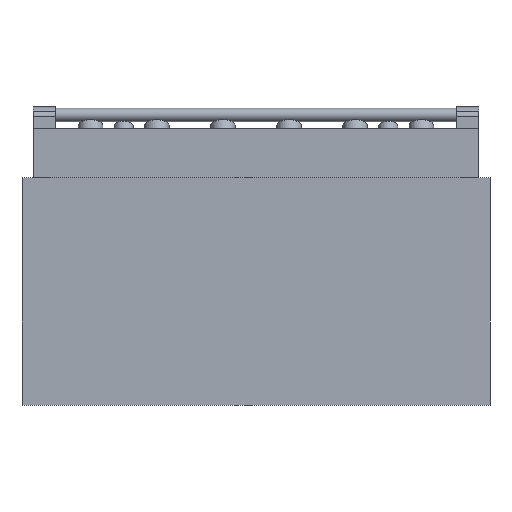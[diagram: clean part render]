
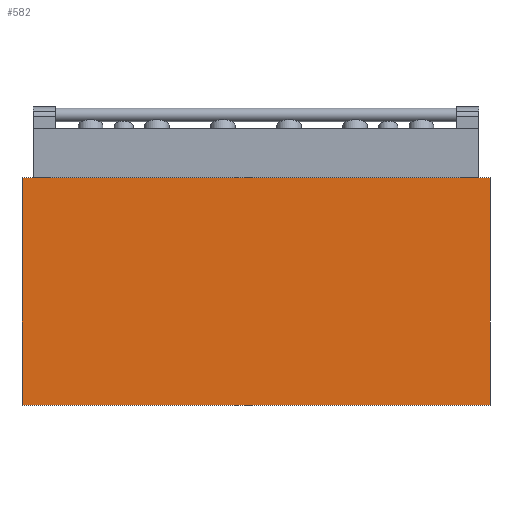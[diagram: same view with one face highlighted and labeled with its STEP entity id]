
A CAD part, front view. The second image highlights one B-rep face of the part: STEP entity #582.
In plain terms, the highlighted planar face has unit normal (0, -1, 0).
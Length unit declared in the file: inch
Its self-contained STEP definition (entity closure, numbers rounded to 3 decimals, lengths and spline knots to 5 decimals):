
#6 = EDGE_LOOP ( 'NONE', ( #1211, #928, #603, #1161 ) ) ;
#205 = DIRECTION ( 'NONE',  ( -1., 0., 0. ) ) ;
#289 = CARTESIAN_POINT ( 'NONE',  ( 23.875, -11.25, 8.587 ) ) ;
#444 = VECTOR ( 'NONE', #1798, 39.37008 ) ;
#458 = EDGE_CURVE ( 'NONE', #1508, #1012, #1929, .T. ) ;
#548 = EDGE_CURVE ( 'NONE', #1278, #1420, #745, .T. ) ;
#582 = ADVANCED_FACE ( 'NONE', ( #1062 ), #1625, .F. ) ;
#603 = ORIENTED_EDGE ( 'NONE', *, *, #548, .F. ) ;
#656 = LINE ( 'NONE', #1245, #444 ) ;
#657 = CARTESIAN_POINT ( 'NONE',  ( -23.875, -11.25, -14.626 ) ) ;
#680 = EDGE_CURVE ( 'NONE', #1278, #1508, #986, .T. ) ;
#745 = LINE ( 'NONE', #1323, #868 ) ;
#868 = VECTOR ( 'NONE', #1867, 39.37008 ) ;
#869 = AXIS2_PLACEMENT_3D ( 'NONE', #289, #917, #1479 ) ;
#872 = CARTESIAN_POINT ( 'NONE',  ( 23.875, -11.25, -14.626 ) ) ;
#917 = DIRECTION ( 'NONE',  ( 0., 1., 0. ) ) ;
#928 = ORIENTED_EDGE ( 'NONE', *, *, #1645, .F. ) ;
#986 = LINE ( 'NONE', #1557, #1179 ) ;
#1012 = VERTEX_POINT ( 'NONE', #657 ) ;
#1062 = FACE_OUTER_BOUND ( 'NONE', #6, .T. ) ;
#1124 = DIRECTION ( 'NONE',  ( 0., 0., -1. ) ) ;
#1161 = ORIENTED_EDGE ( 'NONE', *, *, #680, .T. ) ;
#1179 = VECTOR ( 'NONE', #205, 39.37008 ) ;
#1211 = ORIENTED_EDGE ( 'NONE', *, *, #458, .T. ) ;
#1245 = CARTESIAN_POINT ( 'NONE',  ( 23.875, -11.25, -14.626 ) ) ;
#1277 = CARTESIAN_POINT ( 'NONE',  ( 23.875, -11.25, 8.587 ) ) ;
#1278 = VERTEX_POINT ( 'NONE', #1277 ) ;
#1323 = CARTESIAN_POINT ( 'NONE',  ( 23.875, -11.25, 8.587 ) ) ;
#1420 = VERTEX_POINT ( 'NONE', #872 ) ;
#1457 = CARTESIAN_POINT ( 'NONE',  ( -23.875, -11.25, 8.587 ) ) ;
#1479 = DIRECTION ( 'NONE',  ( 0., 0., 1. ) ) ;
#1508 = VERTEX_POINT ( 'NONE', #1457 ) ;
#1557 = CARTESIAN_POINT ( 'NONE',  ( 23.875, -11.25, 8.587 ) ) ;
#1625 = PLANE ( 'NONE',  #869 ) ;
#1645 = EDGE_CURVE ( 'NONE', #1420, #1012, #656, .T. ) ;
#1700 = VECTOR ( 'NONE', #1124, 39.37008 ) ;
#1798 = DIRECTION ( 'NONE',  ( -1., 0., 0. ) ) ;
#1867 = DIRECTION ( 'NONE',  ( 0., 0., -1. ) ) ;
#1920 = CARTESIAN_POINT ( 'NONE',  ( -23.875, -11.25, 8.587 ) ) ;
#1929 = LINE ( 'NONE', #1920, #1700 ) ;
